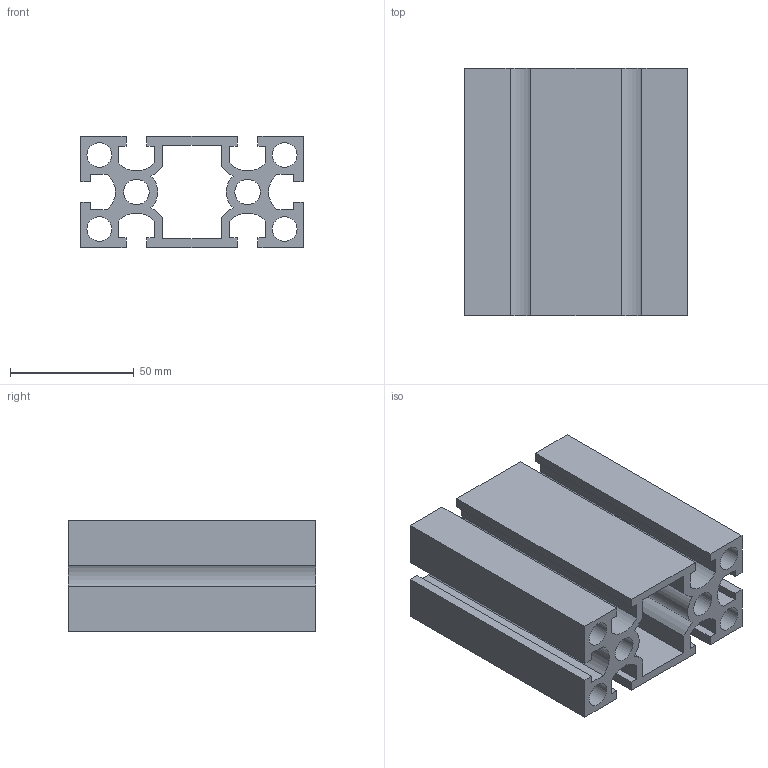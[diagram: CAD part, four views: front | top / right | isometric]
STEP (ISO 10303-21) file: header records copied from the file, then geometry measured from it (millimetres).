
FILE_DESCRIPTION(/* description */ ('Unknown'),/* implementation_level */ '2;1');
FILE_NAME(/* name */ 'NM4590',/* time_stamp */ '2026-08-31T11:48:59+08:00',/* author */ ('Unknown'),/* organization */ ('Unknown'),/* preprocessor_version */ 'ST-DEVELOPER v16.7',/* originating_system */ 'DEX',/* authorisation */ $);
FILE_SCHEMA (('AUTOMOTIVE_DESIGN {1 0 10303 214 3 1 1}'));
Length unit declared in the file: millimetre
Products named in the file (1): 4590
Bounding box: 90 x 100 x 45 mm (x, y, z)
Volume: 158314.3 mm3; surface area: 84026.4 mm2
Topology: 1 solids, 1 shells, 72 faces, 216 edges, 146 vertices
Faces by surface type: plane 54, cylinder 18
Full cylindrical faces by diameter (mm): 10 x4, 10.3 x2
Entity records: 2398 total; most frequent: CARTESIAN_POINT 417, ORIENTED_EDGE 408, DIRECTION 386, EDGE_CURVE 204, LINE 168, VECTOR 168, VERTEX_POINT 140, AXIS2_PLACEMENT_3D 109
